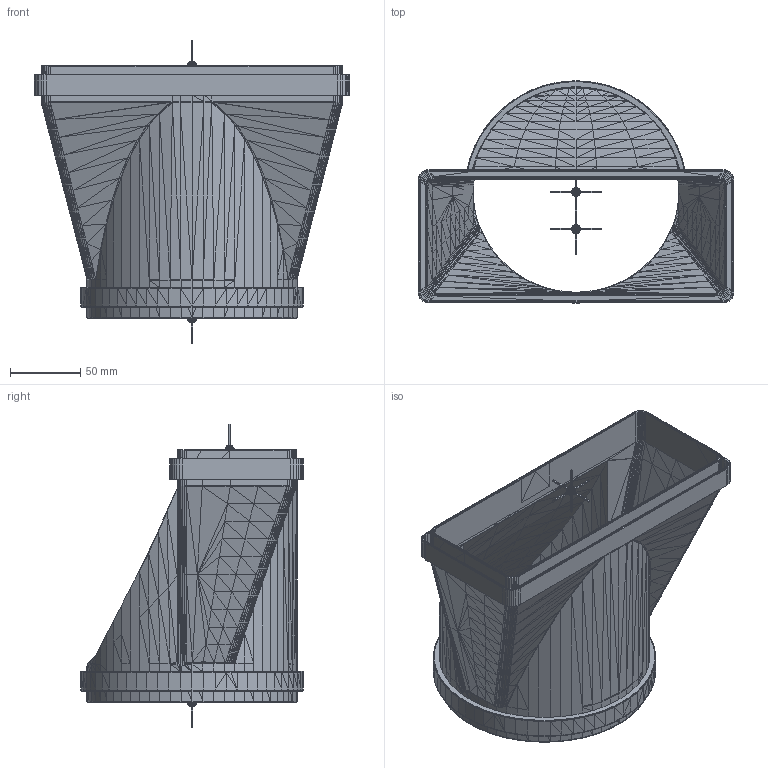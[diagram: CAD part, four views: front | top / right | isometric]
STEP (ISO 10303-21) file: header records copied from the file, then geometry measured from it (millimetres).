
FILE_DESCRIPTION(('FreeCAD Model'),'2;1');
FILE_NAME('Open CASCADE Shape Model','2024-04-12T12:10:36',('Author'),( ''),'Open CASCADE STEP processor 7.6','FreeCAD','Unknown');
FILE_SCHEMA(('AUTOMOTIVE_DESIGN { 1 0 10303 214 1 1 1 1 }'));
Length unit declared in the file: millimetre
Products named in the file (4): Unnamed; Tube_002 (Solid); _Cross_b_002 (Solid); _Cross_f_002 (Solid)
Assembly tree (3 placements, depth 2):
  Unnamed
    Tube_002 (Solid)
    _Cross_b_002 (Solid)
    _Cross_f_002 (Solid)
Bounding box: 225 x 158.5 x 216.42 mm (x, y, z)
Volume: 211751.5 mm3; surface area: 236344.2 mm2
Topology: 3 solids, 3 shells, 9077 faces, 14477 edges, 5407 vertices
Faces by surface type: plane 9077
Entity records: 184883 total; most frequent: DIRECTION 32639, CARTESIAN_POINT 28965, ORIENTED_EDGE 28954, EDGE_CURVE 14477, LINE 14477, VECTOR 14477, AXIS2_PLACEMENT_3D 9081, FACE_BOUND 9080
